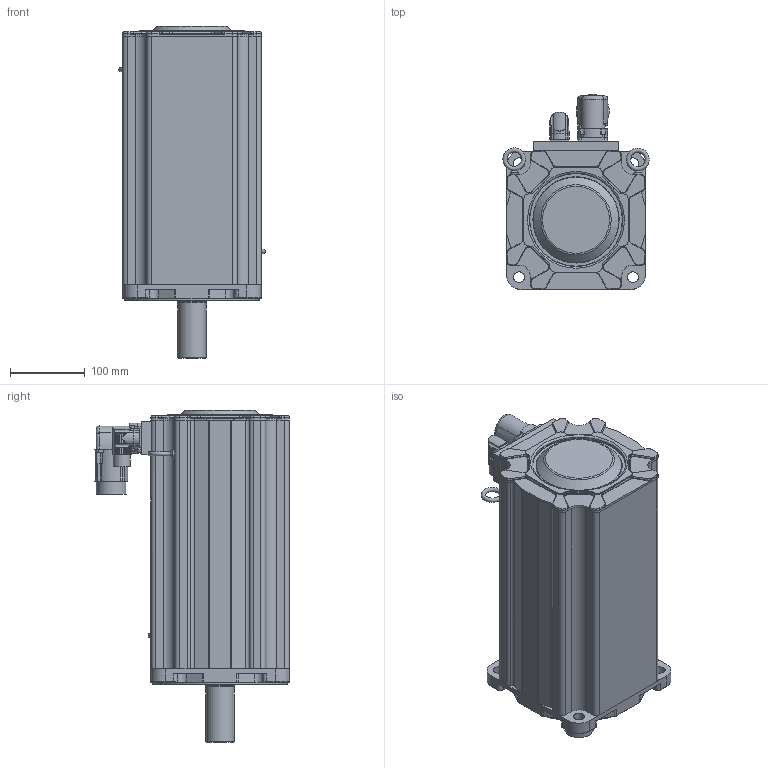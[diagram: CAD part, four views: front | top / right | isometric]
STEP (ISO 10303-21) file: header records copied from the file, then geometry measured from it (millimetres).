
FILE_DESCRIPTION((''),'2;1');
FILE_NAME('C:\CAD_work\Dummy_Modeling_Project_02-12-05\3D MODELS\MPP1906XXX_NPSB.stp','2005-12-20T17:35:43',('jevans'),(''),'Autodesk Inventor 10','Autodesk Inventor 10','');
FILE_SCHEMA(('AUTOMOTIVE_DESIGN { 1 0 10303 214 1 1 1 1 }'));
Length unit declared in the file: inch
Products named in the file (1): MPP190_MOTOR
Bounding box: 195.51 x 260.1 x 443.36 mm (x, y, z)
Volume: 10811828.5 mm3; surface area: 438750.4 mm2
Topology: 5 solids, 5 shells, 820 faces, 2086 edges, 1314 vertices
Faces by surface type: cylinder 369, plane 299, bspline 91, torus 46, cone 15
Full cylindrical faces by diameter (mm): 1.016 x17, 2 x2, 2.997 x2, 3.6 x4, 19.05 x1, 19.685 x1, 22.86 x1, 32.639 x1, 37.645 x1, 38.001 x1, 39.624 x1, 39.903 x1, 40.005 x1, 50.8 x1, 69.85 x1, 80.01 x1, 89.992 x1, 90 x1, 90.043 x1, 90.221 x1, 95.377 x1, 98.425 x1, 124.46 x1, 180.002 x1
Entity records: 28288 total; most frequent: CARTESIAN_POINT 9080, DIRECTION 4016, ORIENTED_EDGE 3946, EDGE_CURVE 1973, AXIS2_PLACEMENT_3D 1553, VERTEX_POINT 1286, EDGE_LOOP 959, VECTOR 910
